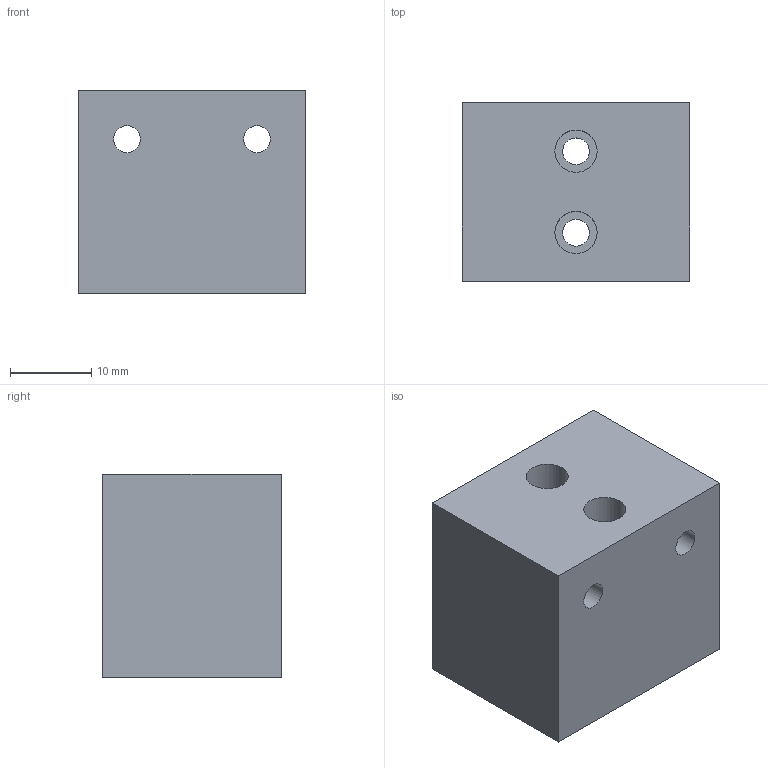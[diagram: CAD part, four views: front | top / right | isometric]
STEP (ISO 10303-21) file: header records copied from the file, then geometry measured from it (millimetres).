
FILE_DESCRIPTION(('Open CASCADE Model'),'2;1');
FILE_NAME('Open CASCADE Shape Model','2026-11-08T06:43:58',('Author'),( 'Open CASCADE'),'Open CASCADE STEP processor 7.8','Open CASCADE 7.8' ,'Unknown');
FILE_SCHEMA(('AUTOMOTIVE_DESIGN { 1 0 10303 214 1 1 1 1 }'));
Length unit declared in the file: millimetre
Products named in the file (1): Open CASCADE STEP translator 7.8 7
Bounding box: 28 x 22 x 25 mm (x, y, z)
Volume: 13911.1 mm3; surface area: 4960.4 mm2
Topology: 1 solids, 1 shells, 18 faces, 36 edges, 24 vertices
Faces by surface type: plane 10, cylinder 8
Full cylindrical faces by diameter (mm): 3.3 x4, 5.2 x4
Entity records: 970 total; most frequent: DIRECTION 162, CARTESIAN_POINT 151, LINE 76, VECTOR 76, ORIENTED_EDGE 72, PCURVE 72, DEFINITIONAL_REPRESENTATION 72, EDGE_CURVE 36
